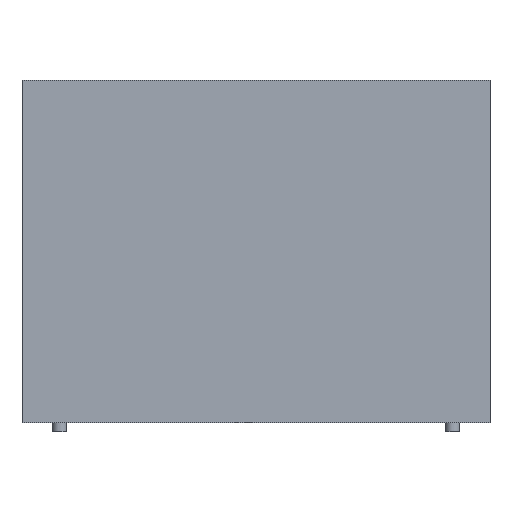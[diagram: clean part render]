
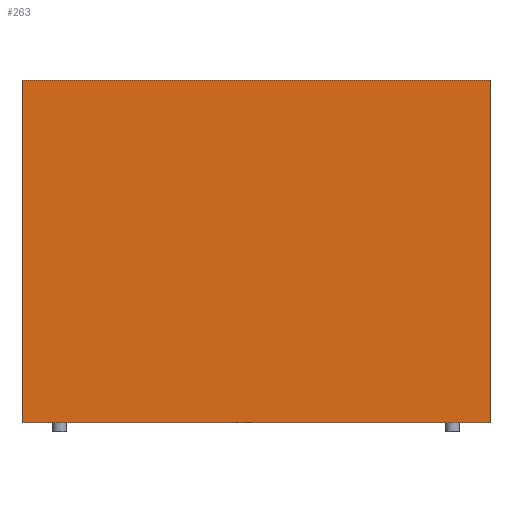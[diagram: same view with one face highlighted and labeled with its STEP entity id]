
A CAD part, front view. The second image highlights one B-rep face of the part: STEP entity #263.
In plain terms, the highlighted planar face has unit normal (0, -1, 0).
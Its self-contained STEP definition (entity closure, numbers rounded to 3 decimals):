
#47 = EDGE_CURVE('',#48,#50,#52,.T.);
#48 = VERTEX_POINT('',#49);
#49 = CARTESIAN_POINT('',(-2.15,-5.6,0.5));
#50 = VERTEX_POINT('',#51);
#51 = CARTESIAN_POINT('',(-2.15,-5.6,20.1));
#52 = SURFACE_CURVE('',#53,(#57,#69),.PCURVE_S1.);
#53 = LINE('',#54,#55);
#54 = CARTESIAN_POINT('',(-2.15,-5.6,0.5));
#55 = VECTOR('',#56,1.);
#56 = DIRECTION('',(0.,0.,1.));
#57 = PCURVE('',#58,#63);
#58 = PLANE('',#59);
#59 = AXIS2_PLACEMENT_3D('',#60,#61,#62);
#60 = CARTESIAN_POINT('',(-2.15,-5.6,0.5));
#61 = DIRECTION('',(1.,0.,-0.));
#62 = DIRECTION('',(0.,0.,1.));
#63 = DEFINITIONAL_REPRESENTATION('',(#64),#68);
#64 = LINE('',#65,#66);
#65 = CARTESIAN_POINT('',(0.,0.));
#66 = VECTOR('',#67,1.);
#67 = DIRECTION('',(1.,0.));
#68 = ( GEOMETRIC_REPRESENTATION_CONTEXT(2) 
PARAMETRIC_REPRESENTATION_CONTEXT() REPRESENTATION_CONTEXT('2D SPACE',''
  ) );
#69 = PCURVE('',#70,#75);
#70 = PLANE('',#71);
#71 = AXIS2_PLACEMENT_3D('',#72,#73,#74);
#72 = CARTESIAN_POINT('',(-2.15,-5.6,0.5));
#73 = DIRECTION('',(-0.,1.,0.));
#74 = DIRECTION('',(0.,0.,1.));
#75 = DEFINITIONAL_REPRESENTATION('',(#76),#80);
#76 = LINE('',#77,#78);
#77 = CARTESIAN_POINT('',(0.,0.));
#78 = VECTOR('',#79,1.);
#79 = DIRECTION('',(1.,0.));
#80 = ( GEOMETRIC_REPRESENTATION_CONTEXT(2) 
PARAMETRIC_REPRESENTATION_CONTEXT() REPRESENTATION_CONTEXT('2D SPACE',''
  ) );
#98 = PLANE('',#99);
#99 = AXIS2_PLACEMENT_3D('',#100,#101,#102);
#100 = CARTESIAN_POINT('',(-2.15,-5.6,0.5));
#101 = DIRECTION('',(0.,0.,1.));
#102 = DIRECTION('',(1.,0.,-0.));
#152 = PLANE('',#153);
#153 = AXIS2_PLACEMENT_3D('',#154,#155,#156);
#154 = CARTESIAN_POINT('',(-2.15,-5.6,20.1));
#155 = DIRECTION('',(0.,0.,1.));
#156 = DIRECTION('',(1.,0.,-0.));
#167 = EDGE_CURVE('',#168,#170,#172,.T.);
#168 = VERTEX_POINT('',#169);
#169 = CARTESIAN_POINT('',(24.65,-5.6,0.5));
#170 = VERTEX_POINT('',#171);
#171 = CARTESIAN_POINT('',(24.65,-5.6,20.1));
#172 = SURFACE_CURVE('',#173,(#177,#189),.PCURVE_S1.);
#173 = LINE('',#174,#175);
#174 = CARTESIAN_POINT('',(24.65,-5.6,0.5));
#175 = VECTOR('',#176,1.);
#176 = DIRECTION('',(0.,0.,1.));
#177 = PCURVE('',#178,#183);
#178 = PLANE('',#179);
#179 = AXIS2_PLACEMENT_3D('',#180,#181,#182);
#180 = CARTESIAN_POINT('',(24.65,-5.6,0.5));
#181 = DIRECTION('',(1.,0.,-0.));
#182 = DIRECTION('',(0.,0.,1.));
#183 = DEFINITIONAL_REPRESENTATION('',(#184),#188);
#184 = LINE('',#185,#186);
#185 = CARTESIAN_POINT('',(0.,0.));
#186 = VECTOR('',#187,1.);
#187 = DIRECTION('',(1.,0.));
#188 = ( GEOMETRIC_REPRESENTATION_CONTEXT(2) 
PARAMETRIC_REPRESENTATION_CONTEXT() REPRESENTATION_CONTEXT('2D SPACE',''
  ) );
#189 = PCURVE('',#70,#190);
#190 = DEFINITIONAL_REPRESENTATION('',(#191),#195);
#191 = LINE('',#192,#193);
#192 = CARTESIAN_POINT('',(0.,26.8));
#193 = VECTOR('',#194,1.);
#194 = DIRECTION('',(1.,0.));
#195 = ( GEOMETRIC_REPRESENTATION_CONTEXT(2) 
PARAMETRIC_REPRESENTATION_CONTEXT() REPRESENTATION_CONTEXT('2D SPACE',''
  ) );
#263 = ADVANCED_FACE('',(#264),#70,.F.);
#264 = FACE_BOUND('',#265,.F.);
#265 = EDGE_LOOP('',(#266,#287,#288,#309));
#266 = ORIENTED_EDGE('',*,*,#267,.F.);
#267 = EDGE_CURVE('',#48,#168,#268,.T.);
#268 = SURFACE_CURVE('',#269,(#273,#280),.PCURVE_S1.);
#269 = LINE('',#270,#271);
#270 = CARTESIAN_POINT('',(-2.15,-5.6,0.5));
#271 = VECTOR('',#272,1.);
#272 = DIRECTION('',(1.,0.,-0.));
#273 = PCURVE('',#70,#274);
#274 = DEFINITIONAL_REPRESENTATION('',(#275),#279);
#275 = LINE('',#276,#277);
#276 = CARTESIAN_POINT('',(0.,0.));
#277 = VECTOR('',#278,1.);
#278 = DIRECTION('',(0.,1.));
#279 = ( GEOMETRIC_REPRESENTATION_CONTEXT(2) 
PARAMETRIC_REPRESENTATION_CONTEXT() REPRESENTATION_CONTEXT('2D SPACE',''
  ) );
#280 = PCURVE('',#98,#281);
#281 = DEFINITIONAL_REPRESENTATION('',(#282),#286);
#282 = LINE('',#283,#284);
#283 = CARTESIAN_POINT('',(0.,0.));
#284 = VECTOR('',#285,1.);
#285 = DIRECTION('',(1.,0.));
#286 = ( GEOMETRIC_REPRESENTATION_CONTEXT(2) 
PARAMETRIC_REPRESENTATION_CONTEXT() REPRESENTATION_CONTEXT('2D SPACE',''
  ) );
#287 = ORIENTED_EDGE('',*,*,#47,.T.);
#288 = ORIENTED_EDGE('',*,*,#289,.T.);
#289 = EDGE_CURVE('',#50,#170,#290,.T.);
#290 = SURFACE_CURVE('',#291,(#295,#302),.PCURVE_S1.);
#291 = LINE('',#292,#293);
#292 = CARTESIAN_POINT('',(-2.15,-5.6,20.1));
#293 = VECTOR('',#294,1.);
#294 = DIRECTION('',(1.,0.,-0.));
#295 = PCURVE('',#70,#296);
#296 = DEFINITIONAL_REPRESENTATION('',(#297),#301);
#297 = LINE('',#298,#299);
#298 = CARTESIAN_POINT('',(19.6,0.));
#299 = VECTOR('',#300,1.);
#300 = DIRECTION('',(0.,1.));
#301 = ( GEOMETRIC_REPRESENTATION_CONTEXT(2) 
PARAMETRIC_REPRESENTATION_CONTEXT() REPRESENTATION_CONTEXT('2D SPACE',''
  ) );
#302 = PCURVE('',#152,#303);
#303 = DEFINITIONAL_REPRESENTATION('',(#304),#308);
#304 = LINE('',#305,#306);
#305 = CARTESIAN_POINT('',(0.,0.));
#306 = VECTOR('',#307,1.);
#307 = DIRECTION('',(1.,0.));
#308 = ( GEOMETRIC_REPRESENTATION_CONTEXT(2) 
PARAMETRIC_REPRESENTATION_CONTEXT() REPRESENTATION_CONTEXT('2D SPACE',''
  ) );
#309 = ORIENTED_EDGE('',*,*,#167,.F.);
